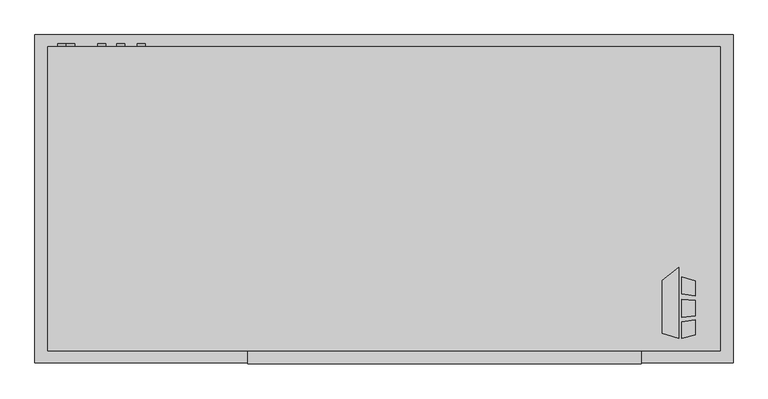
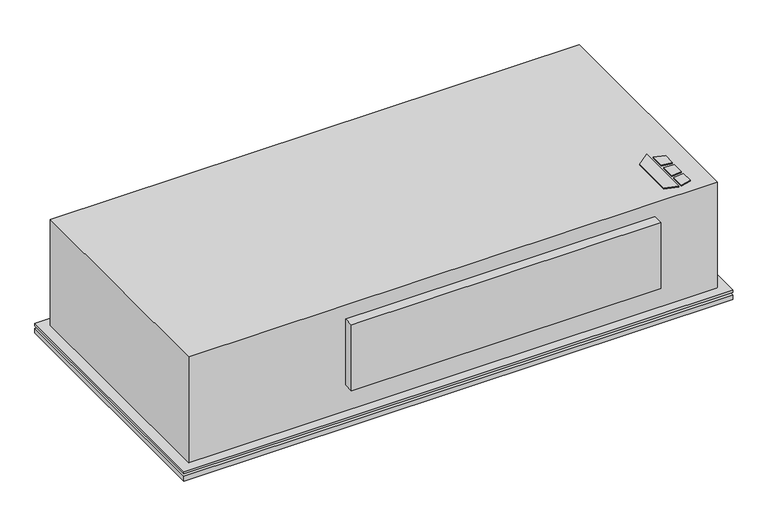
"""IFC4 building model written with IfcOpenShell, lengths in millimetres: proxy geometry, Horizontal_Telescoping_Fan_Coil_Unit_-_CBY_-_IEC_-_4-Pipe_LH_2022 : Size 06 - 277v/60Hz/1Ph - 4/1 Coil."""

from ifc_helpers import new_model, si_unit, point, frame, frame_2d, origin, origin_with_axes, place, context, project, spatial, polyline, circle_curve, trimmed, segment, composite_curve, outline, extrude, source, transform, mapped, element, save


def mechanical_equipment_cf1a71f1(model_context):
    return source(origin(), model_context, "Body", "SweptSolid", [
        extrude(outline(polyline([(709.3019761, -401.0078476), (741.8602728, -375.5705184), (741.8602728, -517.525), (709.3019761, -507.3054201), (709.3019761, -401.0078476)])), origin_with_axes(), (0.0, 0.0, 1.0), 3.175),
        extrude(outline(polyline([(748.6186058, -428.879852), (748.6186058, -394.3999379), (774.7, -402.5865115), (774.7, -432.0822446), (748.6186058, -428.879852)])), origin_with_axes(), (0.0, 0.0, 1.0), 3.175),
        extrude(outline(polyline([(774.7, -510.5365115), (748.6186058, -517.525), (748.6186058, -484.3036996), (774.7, -480.7618564), (774.7, -510.5365115)])), origin_with_axes(), (0.0, 0.0, 1.0), 3.175),
        extrude(outline(polyline([(774.7, -441.1638277), (774.7, -472.413983), (748.6186058, -475.155248), (748.6186058, -439.2975378), (774.7, -441.1638277)])), origin_with_axes(), (0.0, 0.0, 1.0), 3.175),
        extrude(outline(composite_curve([segment(trimmed(circle_curve(frame_2d((-60.325, -333.375)), 7.9375), [point((-60.325, -325.4375))], [point((-60.325, -341.3125))], False, "CARTESIAN"), True, "CONTINUOUS"), segment(trimmed(circle_curve(frame_2d((-60.325, -333.375)), 7.9375), [point((-60.325, -341.3125))], [point((-60.325, -325.4375))], False, "CARTESIAN"), True, "CONTINUOUS")], self_intersect=False)), frame((0.0, 66.675, 0.0), z_axis=(0.0, 1.0, 0.0), x_axis=(0.0, 0.0, 1.0)), (0.0, 0.0, 1.0), 6.35),
        extrude(outline(composite_curve([segment(trimmed(circle_curve(frame_2d((-95.25, -374.65)), 7.9375), [point((-95.25, -366.7125))], [point((-95.25, -382.5875))], False, "CARTESIAN"), True, "CONTINUOUS"), segment(trimmed(circle_curve(frame_2d((-95.25, -374.65)), 7.9375), [point((-95.25, -382.5875))], [point((-95.25, -366.7125))], False, "CARTESIAN"), True, "CONTINUOUS")], self_intersect=False)), frame((0.0, 66.675, 0.0), z_axis=(0.0, 1.0, 0.0), x_axis=(0.0, 0.0, 1.0)), (0.0, 0.0, 1.0), 6.35),
        extrude(outline(composite_curve([segment(trimmed(circle_curve(frame_2d((-44.45, -412.75)), 7.9375), [point((-44.45, -404.8125))], [point((-44.45, -420.6875))], False, "CARTESIAN"), True, "CONTINUOUS"), segment(trimmed(circle_curve(frame_2d((-44.45, -412.75)), 7.9375), [point((-44.45, -420.6875))], [point((-44.45, -404.8125))], False, "CARTESIAN"), True, "CONTINUOUS")], self_intersect=False)), frame((0.0, 66.675, 0.0), z_axis=(0.0, 1.0, 0.0), x_axis=(0.0, 0.0, 1.0)), (0.0, 0.0, 1.0), 6.35),
        extrude(outline(composite_curve([segment(trimmed(circle_curve(frame_2d((-85.725, -492.125)), 7.9375), [point((-85.725, -484.1875))], [point((-85.725, -500.0625))], False, "CARTESIAN"), True, "CONTINUOUS"), segment(trimmed(circle_curve(frame_2d((-85.725, -492.125)), 7.9375), [point((-85.725, -500.0625))], [point((-85.725, -484.1875))], False, "CARTESIAN"), True, "CONTINUOUS")], self_intersect=False)), frame((0.0, 66.675, 0.0), z_axis=(0.0, 1.0, 0.0), x_axis=(0.0, 0.0, 1.0)), (0.0, 0.0, 1.0), 6.35),
        extrude(outline(composite_curve([segment(trimmed(circle_curve(frame_2d((-260.35, -476.25)), 9.525), [point((-260.35, -466.725))], [point((-260.35, -485.775))], False, "CARTESIAN"), True, "CONTINUOUS"), segment(trimmed(circle_curve(frame_2d((-260.35, -476.25)), 9.525), [point((-260.35, -485.775))], [point((-260.35, -466.725))], False, "CARTESIAN"), True, "CONTINUOUS")], self_intersect=False)), frame((0.0, 66.675, 0.0), z_axis=(0.0, 1.0, 0.0), x_axis=(0.0, 0.0, 1.0)), (0.0, 0.0, 1.0), 6.35),
        extrude(outline(polyline([(850.9, 90.4875), (850.9, -566.7375), (-546.1, -566.7375), (-546.1, 90.4875), (850.9, 90.4875)])), frame((0.0, 0.0, -311.15), z_axis=(0.0, 0.0, 1.0), x_axis=(1.0, 0.0, 0.0)), (0.0, 0.0, 1.0), 12.7),
        extrude(outline(polyline([(850.9, 90.4875), (850.9, -566.7375), (-546.1, -566.7375), (-546.1, 90.4875), (850.9, 90.4875)])), frame((0.0, 0.0, -292.1), z_axis=(0.0, 0.0, 1.0), x_axis=(1.0, 0.0, 0.0)), (0.0, 0.0, 1.0), 6.35),
        extrude(outline(polyline([(825.5, 65.0875), (825.5, -541.3375), (-520.7, -541.3375), (-520.7, 65.0875), (825.5, 65.0875)])), frame((0.0, 0.0, -298.45), z_axis=(0.0, 0.0, 1.0), x_axis=(1.0, 0.0, 0.0)), (0.0, 0.0, 1.0), 6.35),
        extrude(outline(polyline([(666.75, -568.325), (-120.65, -568.325), (-120.65, -542.925), (666.75, -542.925), (666.75, -568.325)])), frame((0.0, 0.0, -215.9), z_axis=(0.0, 0.0, 1.0), x_axis=(1.0, 0.0, 0.0)), (0.0, 0.0, 1.0), 177.8),
        extrude(outline(polyline([(-520.7, 66.675), (825.5, 66.675), (825.5, -542.925), (-520.7, -542.925), (-520.7, 66.675)])), frame((0.0, 0.0, -285.75), z_axis=(0.0, 0.0, 1.0), x_axis=(1.0, 0.0, 0.0)), (0.0, 0.0, 1.0), 285.75),
        extrude(outline(polyline([(723.9, -9.525), (723.9, -263.525), (-419.1, -263.525), (-419.1, -9.525), (723.9, -9.525)])), frame((0.0, 0.0, -317.5), z_axis=(0.0, 0.0, 1.0), x_axis=(1.0, 0.0, 0.0)), (0.0, 0.0, 1.0), 6.35),
    ])


if __name__ == "__main__":
    model = new_model("IFC4")
    model_context = context("Model", 3, world=origin())
    ifc_project = project(units=[si_unit("LENGTHUNIT", "METRE", prefix="MILLI")], contexts=[model_context])
    site = spatial("IfcSite", under=ifc_project)
    building = spatial("IfcBuilding", under=site)
    placement = place(None, origin())
    mechanical_equipment_shape = mechanical_equipment_cf1a71f1(model_context)
    element("IfcBuildingElementProxy", 1, Name="Horizontal_Telescoping_Fan_Coil_Unit_-_CBY_-_IEC_-_4-Pipe_LH_2022 : Size 06 - 277v/60Hz/1Ph - 4/1 Coil", ObjectType="Horizontal_Telescoping_Fan_Coil_Unit_-_CBY_-_IEC_-_4-Pipe_LH_2022 : Size 06 - 277v/60Hz/1Ph - 4/1 Coil", at=placement, inside=building, context=model_context, shape_type="MappedRepresentation", body=[
        mapped(mechanical_equipment_shape, transform((0.0, 0.0, 0.0), x_axis=(1.0, 0.0, 0.0), y_axis=(0.0, 1.0, 0.0), z_axis=(0.0, 0.0, 1.0))),
    ])
    save(model, "model.ifc")
